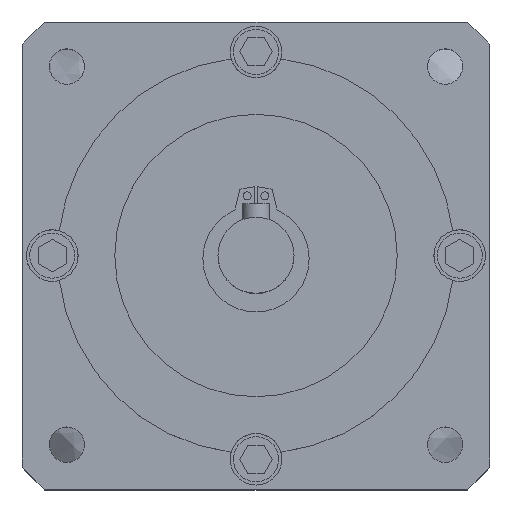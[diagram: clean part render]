
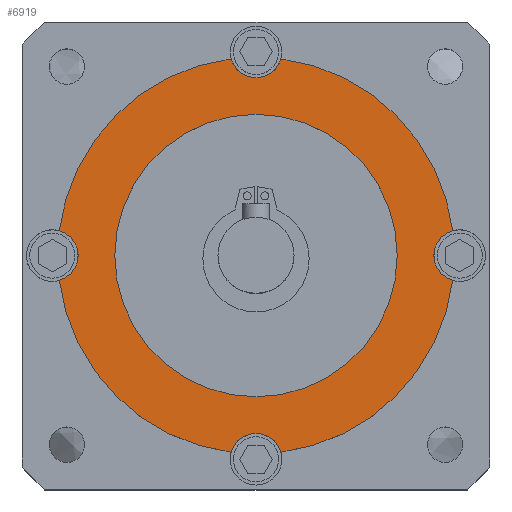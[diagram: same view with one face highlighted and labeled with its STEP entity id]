
A CAD part, top view. The second image highlights one B-rep face of the part: STEP entity #6919.
In plain terms, the highlighted planar face has unit normal (0, 0, 1).
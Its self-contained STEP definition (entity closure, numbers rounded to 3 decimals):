
#31 = CIRCLE ( 'NONE', #905, 36.5 ) ;
#36 = AXIS2_PLACEMENT_3D ( 'NONE', #5030, #7431, #828 ) ;
#101 = CARTESIAN_POINT ( 'NONE',  ( -4.572, -36.212, 91.2 ) ) ;
#120 = AXIS2_PLACEMENT_3D ( 'NONE', #4566, #6408, #863 ) ;
#138 = VERTEX_POINT ( 'NONE', #3414 ) ;
#194 = EDGE_CURVE ( 'NONE', #6121, #6530, #2625, .T. ) ;
#276 = CIRCLE ( 'NONE', #4997, 36.5 ) ;
#495 = EDGE_CURVE ( 'NONE', #6207, #2649, #3305, .T. ) ;
#580 = CARTESIAN_POINT ( 'NONE',  ( 32.75, 0., 91.2 ) ) ;
#636 = CARTESIAN_POINT ( 'NONE',  ( -36.212, -4.572, 91.2 ) ) ;
#646 = EDGE_CURVE ( 'NONE', #3756, #138, #7382, .T. ) ;
#828 = DIRECTION ( 'NONE',  ( 1., 0., 0. ) ) ;
#863 = DIRECTION ( 'NONE',  ( 1., 0., 0. ) ) ;
#905 = AXIS2_PLACEMENT_3D ( 'NONE', #3014, #1819, #5488 ) ;
#1226 = AXIS2_PLACEMENT_3D ( 'NONE', #6239, #6800, #7304 ) ;
#1298 = DIRECTION ( 'NONE',  ( 1., 0., 0. ) ) ;
#1423 = AXIS2_PLACEMENT_3D ( 'NONE', #5091, #5642, #6912 ) ;
#1733 = DIRECTION ( 'NONE',  ( 1., 0., 0. ) ) ;
#1752 = EDGE_CURVE ( 'NONE', #6939, #5451, #7204, .T. ) ;
#1787 = ORIENTED_EDGE ( 'NONE', *, *, #646, .F. ) ;
#1817 = AXIS2_PLACEMENT_3D ( 'NONE', #5496, #5574, #4939 ) ;
#1819 = DIRECTION ( 'NONE',  ( 0., 0., 1. ) ) ;
#1940 = CARTESIAN_POINT ( 'NONE',  ( -4.572, 36.212, 91.2 ) ) ;
#1942 = AXIS2_PLACEMENT_3D ( 'NONE', #4795, #7290, #7323 ) ;
#2295 = DIRECTION ( 'NONE',  ( 0., 0., 1. ) ) ;
#2303 = ORIENTED_EDGE ( 'NONE', *, *, #5979, .F. ) ;
#2446 = FACE_BOUND ( 'NONE', #4320, .T. ) ;
#2564 = ORIENTED_EDGE ( 'NONE', *, *, #6581, .T. ) ;
#2581 = CIRCLE ( 'NONE', #3734, 4.75 ) ;
#2625 = CIRCLE ( 'NONE', #1226, 4.75 ) ;
#2649 = VERTEX_POINT ( 'NONE', #3237 ) ;
#3005 = FACE_OUTER_BOUND ( 'NONE', #5246, .T. ) ;
#3014 = CARTESIAN_POINT ( 'NONE',  ( 0., 0., 91.2 ) ) ;
#3089 = CARTESIAN_POINT ( 'NONE',  ( 4.572, -36.212, 91.2 ) ) ;
#3137 = CARTESIAN_POINT ( 'NONE',  ( -36.212, 4.572, 91.2 ) ) ;
#3237 = CARTESIAN_POINT ( 'NONE',  ( 4.572, 36.212, 91.2 ) ) ;
#3302 = ORIENTED_EDGE ( 'NONE', *, *, #6575, .T. ) ;
#3305 = CIRCLE ( 'NONE', #5599, 36.5 ) ;
#3308 = CIRCLE ( 'NONE', #6875, 4.75 ) ;
#3414 = CARTESIAN_POINT ( 'NONE',  ( -26., 0., 91.2 ) ) ;
#3557 = CARTESIAN_POINT ( 'NONE',  ( -37.5, 0., 91.2 ) ) ;
#3665 = ORIENTED_EDGE ( 'NONE', *, *, #495, .T. ) ;
#3691 = CARTESIAN_POINT ( 'NONE',  ( 0., 0., 91.2 ) ) ;
#3734 = AXIS2_PLACEMENT_3D ( 'NONE', #3557, #6541, #5987 ) ;
#3756 = VERTEX_POINT ( 'NONE', #7322 ) ;
#3917 = ORIENTED_EDGE ( 'NONE', *, *, #6156, .F. ) ;
#3974 = CIRCLE ( 'NONE', #36, 4.75 ) ;
#4073 = ORIENTED_EDGE ( 'NONE', *, *, #5431, .T. ) ;
#4142 = ORIENTED_EDGE ( 'NONE', *, *, #194, .F. ) ;
#4204 = CARTESIAN_POINT ( 'NONE',  ( 0., 0., 91.2 ) ) ;
#4320 = EDGE_LOOP ( 'NONE', ( #7264, #1787 ) ) ;
#4429 = DIRECTION ( 'NONE',  ( 0., 0., 1. ) ) ;
#4430 = EDGE_CURVE ( 'NONE', #5398, #7538, #3308, .T. ) ;
#4566 = CARTESIAN_POINT ( 'NONE',  ( 0., -37.5, 91.2 ) ) ;
#4768 = CARTESIAN_POINT ( 'NONE',  ( 0., 0., 91.2 ) ) ;
#4795 = CARTESIAN_POINT ( 'NONE',  ( 0., 0., 91.2 ) ) ;
#4814 = CARTESIAN_POINT ( 'NONE',  ( -32.75, 0., 91.2 ) ) ;
#4867 = CIRCLE ( 'NONE', #6892, 36.5 ) ;
#4882 = PLANE ( 'NONE',  #1942 ) ;
#4883 = ORIENTED_EDGE ( 'NONE', *, *, #7309, .F. ) ;
#4939 = DIRECTION ( 'NONE',  ( 1., 0., 0. ) ) ;
#4997 = AXIS2_PLACEMENT_3D ( 'NONE', #4204, #5362, #1298 ) ;
#5030 = CARTESIAN_POINT ( 'NONE',  ( 37.5, 0., 91.2 ) ) ;
#5091 = CARTESIAN_POINT ( 'NONE',  ( 0., 0., 91.2 ) ) ;
#5246 = EDGE_LOOP ( 'NONE', ( #2303, #3665, #3917, #3302, #4142, #4883, #4073, #5427, #2564, #5818 ) ) ;
#5360 = CARTESIAN_POINT ( 'NONE',  ( 37.5, 0., 91.2 ) ) ;
#5362 = DIRECTION ( 'NONE',  ( 0., 0., 1. ) ) ;
#5384 = CIRCLE ( 'NONE', #1817, 4.75 ) ;
#5398 = VERTEX_POINT ( 'NONE', #580 ) ;
#5427 = ORIENTED_EDGE ( 'NONE', *, *, #1752, .F. ) ;
#5431 = EDGE_CURVE ( 'NONE', #5735, #5451, #276, .T. ) ;
#5438 = DIRECTION ( 'NONE',  ( 1., 0., 0. ) ) ;
#5451 = VERTEX_POINT ( 'NONE', #101 ) ;
#5488 = DIRECTION ( 'NONE',  ( 1., 0., 0. ) ) ;
#5496 = CARTESIAN_POINT ( 'NONE',  ( 0., 37.5, 91.2 ) ) ;
#5557 = DIRECTION ( 'NONE',  ( 1., 0., 0. ) ) ;
#5574 = DIRECTION ( 'NONE',  ( 0., 0., 1. ) ) ;
#5599 = AXIS2_PLACEMENT_3D ( 'NONE', #3691, #7367, #5557 ) ;
#5642 = DIRECTION ( 'NONE',  ( 0., 0., 1. ) ) ;
#5712 = CARTESIAN_POINT ( 'NONE',  ( 0., 0., 91.2 ) ) ;
#5735 = VERTEX_POINT ( 'NONE', #636 ) ;
#5818 = ORIENTED_EDGE ( 'NONE', *, *, #4430, .F. ) ;
#5979 = EDGE_CURVE ( 'NONE', #6207, #5398, #3974, .T. ) ;
#5987 = DIRECTION ( 'NONE',  ( 1., 0., 0. ) ) ;
#6121 = VERTEX_POINT ( 'NONE', #4814 ) ;
#6156 = EDGE_CURVE ( 'NONE', #6595, #2649, #5384, .T. ) ;
#6207 = VERTEX_POINT ( 'NONE', #6318 ) ;
#6239 = CARTESIAN_POINT ( 'NONE',  ( -37.5, 0., 91.2 ) ) ;
#6318 = CARTESIAN_POINT ( 'NONE',  ( 36.212, 4.572, 91.2 ) ) ;
#6408 = DIRECTION ( 'NONE',  ( 0., 0., 1. ) ) ;
#6530 = VERTEX_POINT ( 'NONE', #3137 ) ;
#6541 = DIRECTION ( 'NONE',  ( 0., 0., 1. ) ) ;
#6575 = EDGE_CURVE ( 'NONE', #6595, #6530, #4867, .T. ) ;
#6581 = EDGE_CURVE ( 'NONE', #6939, #7538, #31, .T. ) ;
#6595 = VERTEX_POINT ( 'NONE', #1940 ) ;
#6642 = CIRCLE ( 'NONE', #1423, 26. ) ;
#6728 = EDGE_CURVE ( 'NONE', #138, #3756, #6642, .T. ) ;
#6800 = DIRECTION ( 'NONE',  ( 0., 0., 1. ) ) ;
#6875 = AXIS2_PLACEMENT_3D ( 'NONE', #5360, #2295, #5438 ) ;
#6892 = AXIS2_PLACEMENT_3D ( 'NONE', #4768, #7263, #1733 ) ;
#6912 = DIRECTION ( 'NONE',  ( 1., 0., 0. ) ) ;
#6919 = ADVANCED_FACE ( 'NONE', ( #3005, #2446 ), #4882, .T. ) ;
#6939 = VERTEX_POINT ( 'NONE', #3089 ) ;
#7109 = CARTESIAN_POINT ( 'NONE',  ( 36.213, -4.572, 91.2 ) ) ;
#7204 = CIRCLE ( 'NONE', #120, 4.75 ) ;
#7263 = DIRECTION ( 'NONE',  ( 0., 0., 1. ) ) ;
#7264 = ORIENTED_EDGE ( 'NONE', *, *, #6728, .F. ) ;
#7290 = DIRECTION ( 'NONE',  ( 0., 0., 1. ) ) ;
#7304 = DIRECTION ( 'NONE',  ( 1., 0., 0. ) ) ;
#7309 = EDGE_CURVE ( 'NONE', #5735, #6121, #2581, .T. ) ;
#7322 = CARTESIAN_POINT ( 'NONE',  ( 26., 0., 91.2 ) ) ;
#7323 = DIRECTION ( 'NONE',  ( 1., 0., 0. ) ) ;
#7367 = DIRECTION ( 'NONE',  ( 0., 0., 1. ) ) ;
#7382 = CIRCLE ( 'NONE', #7606, 26. ) ;
#7431 = DIRECTION ( 'NONE',  ( 0., 0., 1. ) ) ;
#7517 = DIRECTION ( 'NONE',  ( 1., 0., 0. ) ) ;
#7538 = VERTEX_POINT ( 'NONE', #7109 ) ;
#7606 = AXIS2_PLACEMENT_3D ( 'NONE', #5712, #4429, #7517 ) ;
